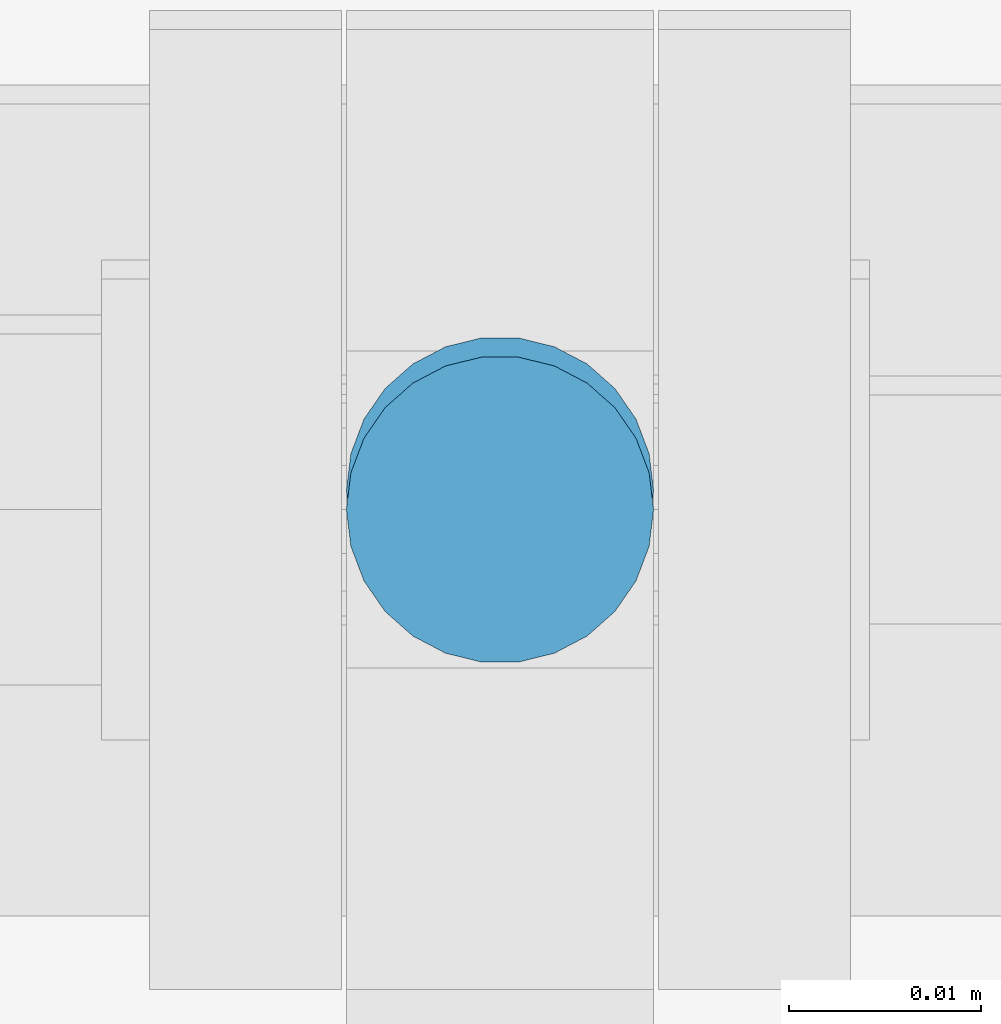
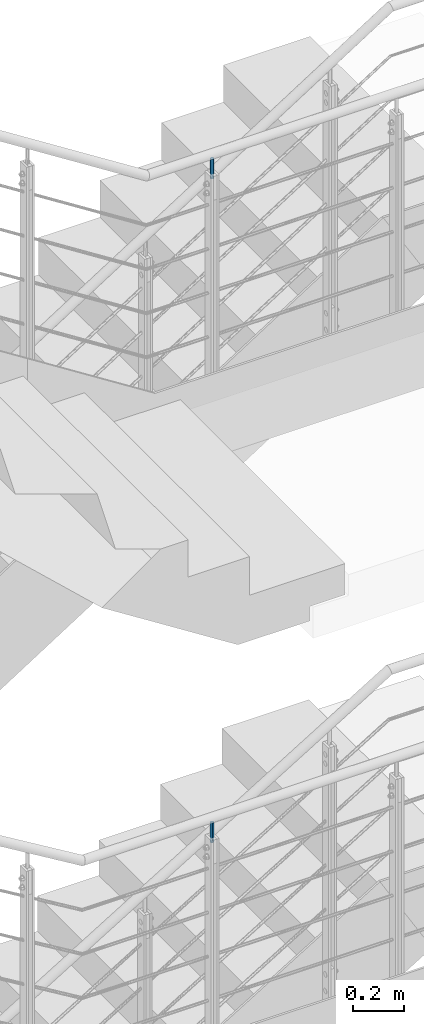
# One storey, part 9 of 98: 2 columns.
"""IFC2X3 building model written with IfcOpenShell, lengths in millimetres."""

from ifc_helpers import new_model, entity, si_unit, converted_unit, frame, origin, origin_with_axes, origin_2d, place, context, project, spatial, circle, extrude, material, element, save


model = new_model("IFC2X3")

# Units and contexts
model_context = context("Model", 3, precision=1e-09, world=origin_with_axes())
ifc_project = project(units=[si_unit("LENGTHUNIT", "METRE", prefix="MILLI"), si_unit("AREAUNIT", "SQUARE_METRE"), si_unit("VOLUMEUNIT", "CUBIC_METRE"), converted_unit("PLANEANGLEUNIT", "DEGREE", entity("IfcPlaneAngleMeasure", 0.01745329), si_unit("PLANEANGLEUNIT", "RADIAN"), dimensions=[0, 0, 0, 0, 0, 0, 0])], contexts=[model_context])

# Site, building, storey
site_placement = place(None, origin_with_axes())
site = spatial("IfcSite", under=ifc_project, at=site_placement, Name="Maybachstra?e 2, 71563 Affalterbach", CompositionType="ELEMENT")
building_placement = place(site_placement, origin_with_axes())
building = spatial("IfcBuilding", under=site, at=building_placement, Name="Struktur 1", CompositionType="ELEMENT")
storey_placement = place(building_placement, origin_with_axes())
storey = spatial("IfcBuildingStorey", under=building, at=storey_placement, Name="Default Storey", CompositionType="ELEMENT", Elevation=0.0)

# Columns
ifc_material = material(Name="1.4301")
for number, where, z_axis, x_axis in (
    (1, (10535.029157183, -569.0, 3947.6), (0.0, 0.0, 1.0), (-1.0, 0.0, 0.0)),
    (2, (10535.029157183, -570.0, 7140.1), (0.0, 0.0, 1.0), (-1.0, 0.0, 0.0)),
):
    element("IfcColumn", number, at=place(None, frame(where, z_axis=z_axis, x_axis=x_axis)), inside=storey, material=ifc_material, Name="-", ObjectType="-", context=model_context, shape_type="SweptSolid", body=[
        extrude(circle(Radius=8.0, at=origin_2d()), origin(), (0.0, 0.0, -1.0), 95.0),
    ])

save(model, "model.ifc")
